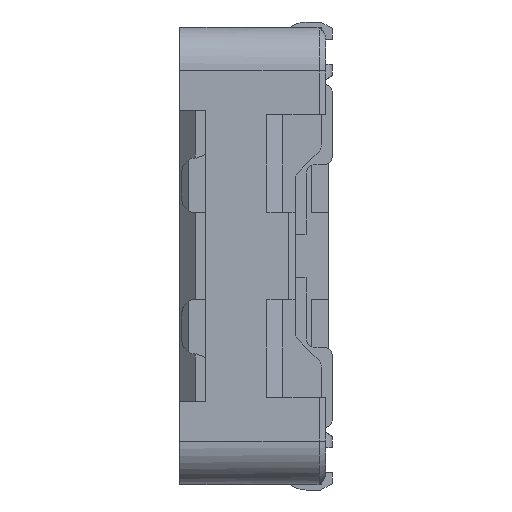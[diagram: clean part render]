
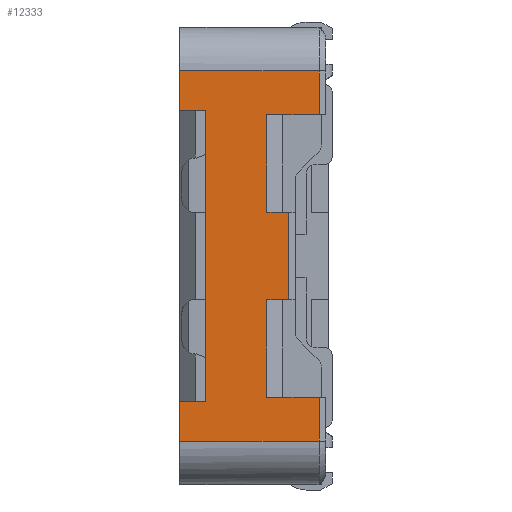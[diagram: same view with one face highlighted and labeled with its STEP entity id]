
A CAD part, left-side view. The second image highlights one B-rep face of the part: STEP entity #12333.
In plain terms, the highlighted planar face has unit normal (-1, 0, 0).
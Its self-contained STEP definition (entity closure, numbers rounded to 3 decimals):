
#154 = VECTOR ( 'NONE', #18014, 1000. ) ;
#380 = LINE ( 'NONE', #900, #9859 ) ;
#447 = CARTESIAN_POINT ( 'NONE',  ( -2.075, 0.06, -1.05 ) ) ;
#527 = ORIENTED_EDGE ( 'NONE', *, *, #19514, .F. ) ;
#747 = DIRECTION ( 'NONE',  ( 0., -1., 0. ) ) ;
#900 = CARTESIAN_POINT ( 'NONE',  ( -2.075, 0.63, 0.67 ) ) ;
#1060 = DIRECTION ( 'NONE',  ( 0., 0., 1. ) ) ;
#1241 = ORIENTED_EDGE ( 'NONE', *, *, #2085, .T. ) ;
#1280 = DIRECTION ( 'NONE',  ( 0., 0., 1. ) ) ;
#1484 = EDGE_LOOP ( 'NONE', ( #19380, #14899, #1241, #12671, #19252, #18382, #4953, #18447, #4046, #527, #12645, #17844, #16780, #18849, #14142, #12956 ) ) ;
#1773 = LINE ( 'NONE', #447, #11017 ) ;
#1981 = CARTESIAN_POINT ( 'NONE',  ( -2.075, 0.3, 0.65 ) ) ;
#2085 = EDGE_CURVE ( 'NONE', #17293, #12464, #11719, .T. ) ;
#2111 = VERTEX_POINT ( 'NONE', #19411 ) ;
#2173 = VECTOR ( 'NONE', #13955, 1000. ) ;
#2225 = VECTOR ( 'NONE', #3013, 1000. ) ;
#2260 = CARTESIAN_POINT ( 'NONE',  ( -2.075, 0.3, 0.65 ) ) ;
#2291 = CARTESIAN_POINT ( 'NONE',  ( -2.075, 0.06, -0.65 ) ) ;
#2387 = LINE ( 'NONE', #2625, #5936 ) ;
#2625 = CARTESIAN_POINT ( 'NONE',  ( -2.075, 0.3, -0.2 ) ) ;
#2634 = VECTOR ( 'NONE', #14195, 1000. ) ;
#2793 = VERTEX_POINT ( 'NONE', #9544 ) ;
#3013 = DIRECTION ( 'NONE',  ( 0., 1., 0. ) ) ;
#3337 = VECTOR ( 'NONE', #6850, 1000. ) ;
#3559 = EDGE_CURVE ( 'NONE', #13536, #2793, #380, .T. ) ;
#3583 = EDGE_CURVE ( 'NONE', #2111, #4689, #4659, .T. ) ;
#3589 = LINE ( 'NONE', #18676, #2634 ) ;
#3653 = CARTESIAN_POINT ( 'NONE',  ( -2.075, 0.58, -0.448 ) ) ;
#3660 = AXIS2_PLACEMENT_3D ( 'NONE', #7918, #15643, #6575 ) ;
#3763 = DIRECTION ( 'NONE',  ( 0., 1., 0. ) ) ;
#3808 = LINE ( 'NONE', #6587, #3337 ) ;
#4046 = ORIENTED_EDGE ( 'NONE', *, *, #7988, .T. ) ;
#4073 = VERTEX_POINT ( 'NONE', #9430 ) ;
#4189 = CARTESIAN_POINT ( 'NONE',  ( -2.075, 0.06, 1.05 ) ) ;
#4424 = EDGE_CURVE ( 'NONE', #4689, #12465, #1773, .T. ) ;
#4498 = EDGE_CURVE ( 'NONE', #4073, #15814, #18840, .T. ) ;
#4659 = LINE ( 'NONE', #13311, #154 ) ;
#4689 = VERTEX_POINT ( 'NONE', #2291 ) ;
#4895 = EDGE_CURVE ( 'NONE', #15852, #13536, #13646, .T. ) ;
#4940 = VECTOR ( 'NONE', #6791, 1000. ) ;
#4953 = ORIENTED_EDGE ( 'NONE', *, *, #13414, .T. ) ;
#5425 = CARTESIAN_POINT ( 'NONE',  ( -2.075, 0.2, 1.05 ) ) ;
#5704 = CARTESIAN_POINT ( 'NONE',  ( -2.075, 0.3, -0.65 ) ) ;
#5769 = DIRECTION ( 'NONE',  ( 0., -1., 0. ) ) ;
#5936 = VECTOR ( 'NONE', #5769, 1000. ) ;
#6321 = DIRECTION ( 'NONE',  ( 0., 0., -1. ) ) ;
#6575 = DIRECTION ( 'NONE',  ( 0., 0., 1. ) ) ;
#6587 = CARTESIAN_POINT ( 'NONE',  ( -2.075, 0.3, 0.2 ) ) ;
#6687 = VERTEX_POINT ( 'NONE', #6859 ) ;
#6701 = CARTESIAN_POINT ( 'NONE',  ( -2.075, 0.7, -0.85 ) ) ;
#6791 = DIRECTION ( 'NONE',  ( 0., 0., 1. ) ) ;
#6850 = DIRECTION ( 'NONE',  ( 0., -1., 0. ) ) ;
#6859 = CARTESIAN_POINT ( 'NONE',  ( -2.075, 0.3, -0.2 ) ) ;
#6986 = EDGE_CURVE ( 'NONE', #2793, #15814, #3589, .T. ) ;
#7349 = CARTESIAN_POINT ( 'NONE',  ( -2.075, 0.7, 0.85 ) ) ;
#7628 = CARTESIAN_POINT ( 'NONE',  ( -2.075, 0.58, 0.67 ) ) ;
#7918 = CARTESIAN_POINT ( 'NONE',  ( -2.075, 0.58, 1.05 ) ) ;
#7988 = EDGE_CURVE ( 'NONE', #8644, #10603, #18245, .T. ) ;
#8205 = CARTESIAN_POINT ( 'NONE',  ( -2.075, 0.3, 0.65 ) ) ;
#8631 = DIRECTION ( 'NONE',  ( 0., 0., 1. ) ) ;
#8644 = VERTEX_POINT ( 'NONE', #13789 ) ;
#8782 = VECTOR ( 'NONE', #8631, 1000. ) ;
#8846 = VECTOR ( 'NONE', #16455, 1000. ) ;
#9430 = CARTESIAN_POINT ( 'NONE',  ( -2.075, 0.06, 0.85 ) ) ;
#9544 = CARTESIAN_POINT ( 'NONE',  ( -2.075, 0.7, 0.67 ) ) ;
#9687 = DIRECTION ( 'NONE',  ( 0., 0., -1. ) ) ;
#9714 = CARTESIAN_POINT ( 'NONE',  ( -2.075, 0.06, -0.85 ) ) ;
#9859 = VECTOR ( 'NONE', #11904, 1000. ) ;
#10124 = VERTEX_POINT ( 'NONE', #12600 ) ;
#10571 = VECTOR ( 'NONE', #1280, 1000. ) ;
#10603 = VERTEX_POINT ( 'NONE', #14270 ) ;
#10729 = LINE ( 'NONE', #11022, #2173 ) ;
#11017 = VECTOR ( 'NONE', #6321, 1000. ) ;
#11022 = CARTESIAN_POINT ( 'NONE',  ( -2.075, 0.58, -0.85 ) ) ;
#11117 = PLANE ( 'NONE',  #3660 ) ;
#11719 = LINE ( 'NONE', #11852, #8846 ) ;
#11852 = CARTESIAN_POINT ( 'NONE',  ( -2.075, 0.7, -1.05 ) ) ;
#11904 = DIRECTION ( 'NONE',  ( 0., 1., 0. ) ) ;
#12091 = CARTESIAN_POINT ( 'NONE',  ( -2.075, 0.63, -0.67 ) ) ;
#12126 = VECTOR ( 'NONE', #747, 1000. ) ;
#12333 = ADVANCED_FACE ( 'NONE', ( #19537 ), #11117, .T. ) ;
#12464 = VERTEX_POINT ( 'NONE', #6701 ) ;
#12465 = VERTEX_POINT ( 'NONE', #9714 ) ;
#12600 = CARTESIAN_POINT ( 'NONE',  ( -2.075, 0.3, 0.2 ) ) ;
#12624 = LINE ( 'NONE', #8205, #12126 ) ;
#12645 = ORIENTED_EDGE ( 'NONE', *, *, #18986, .F. ) ;
#12671 = ORIENTED_EDGE ( 'NONE', *, *, #18338, .F. ) ;
#12732 = CARTESIAN_POINT ( 'NONE',  ( -2.075, 0.7, -0.67 ) ) ;
#12956 = ORIENTED_EDGE ( 'NONE', *, *, #3559, .F. ) ;
#12958 = LINE ( 'NONE', #4189, #10571 ) ;
#13311 = CARTESIAN_POINT ( 'NONE',  ( -2.075, 0.3, -0.65 ) ) ;
#13326 = EDGE_CURVE ( 'NONE', #6687, #8644, #2387, .T. ) ;
#13413 = LINE ( 'NONE', #12091, #2225 ) ;
#13414 = EDGE_CURVE ( 'NONE', #2111, #6687, #14766, .T. ) ;
#13536 = VERTEX_POINT ( 'NONE', #7628 ) ;
#13623 = CARTESIAN_POINT ( 'NONE',  ( -2.075, 0.58, -0.67 ) ) ;
#13646 = LINE ( 'NONE', #3653, #14354 ) ;
#13789 = CARTESIAN_POINT ( 'NONE',  ( -2.075, 0.2, -0.2 ) ) ;
#13955 = DIRECTION ( 'NONE',  ( 0., 1., 0. ) ) ;
#14142 = ORIENTED_EDGE ( 'NONE', *, *, #6986, .F. ) ;
#14195 = DIRECTION ( 'NONE',  ( 0., 0., 1. ) ) ;
#14270 = CARTESIAN_POINT ( 'NONE',  ( -2.075, 0.2, 0.2 ) ) ;
#14354 = VECTOR ( 'NONE', #1060, 1000. ) ;
#14464 = CARTESIAN_POINT ( 'NONE',  ( -2.075, 0.58, 0.85 ) ) ;
#14766 = LINE ( 'NONE', #5704, #8782 ) ;
#14899 = ORIENTED_EDGE ( 'NONE', *, *, #16528, .T. ) ;
#15643 = DIRECTION ( 'NONE',  ( -1., 0., 0. ) ) ;
#15758 = EDGE_CURVE ( 'NONE', #19225, #4073, #12958, .T. ) ;
#15814 = VERTEX_POINT ( 'NONE', #7349 ) ;
#15852 = VERTEX_POINT ( 'NONE', #13623 ) ;
#16455 = DIRECTION ( 'NONE',  ( 0., 0., -1. ) ) ;
#16528 = EDGE_CURVE ( 'NONE', #15852, #17293, #13413, .T. ) ;
#16659 = LINE ( 'NONE', #2260, #18533 ) ;
#16780 = ORIENTED_EDGE ( 'NONE', *, *, #15758, .T. ) ;
#17293 = VERTEX_POINT ( 'NONE', #12732 ) ;
#17844 = ORIENTED_EDGE ( 'NONE', *, *, #18930, .T. ) ;
#18014 = DIRECTION ( 'NONE',  ( 0., -1., 0. ) ) ;
#18245 = LINE ( 'NONE', #5425, #4940 ) ;
#18338 = EDGE_CURVE ( 'NONE', #12465, #12464, #10729, .T. ) ;
#18382 = ORIENTED_EDGE ( 'NONE', *, *, #3583, .F. ) ;
#18447 = ORIENTED_EDGE ( 'NONE', *, *, #13326, .T. ) ;
#18533 = VECTOR ( 'NONE', #9687, 1000. ) ;
#18676 = CARTESIAN_POINT ( 'NONE',  ( -2.075, 0.7, 1.05 ) ) ;
#18840 = LINE ( 'NONE', #14464, #19080 ) ;
#18849 = ORIENTED_EDGE ( 'NONE', *, *, #4498, .T. ) ;
#18930 = EDGE_CURVE ( 'NONE', #19448, #19225, #12624, .T. ) ;
#18986 = EDGE_CURVE ( 'NONE', #19448, #10124, #16659, .T. ) ;
#19080 = VECTOR ( 'NONE', #3763, 1000. ) ;
#19225 = VERTEX_POINT ( 'NONE', #19443 ) ;
#19252 = ORIENTED_EDGE ( 'NONE', *, *, #4424, .F. ) ;
#19380 = ORIENTED_EDGE ( 'NONE', *, *, #4895, .F. ) ;
#19411 = CARTESIAN_POINT ( 'NONE',  ( -2.075, 0.3, -0.65 ) ) ;
#19443 = CARTESIAN_POINT ( 'NONE',  ( -2.075, 0.06, 0.65 ) ) ;
#19448 = VERTEX_POINT ( 'NONE', #1981 ) ;
#19514 = EDGE_CURVE ( 'NONE', #10124, #10603, #3808, .T. ) ;
#19537 = FACE_OUTER_BOUND ( 'NONE', #1484, .T. ) ;
